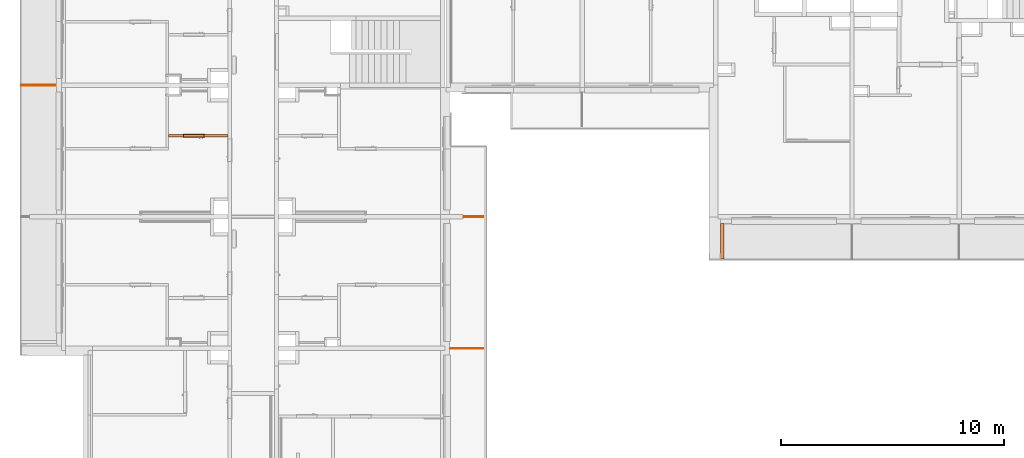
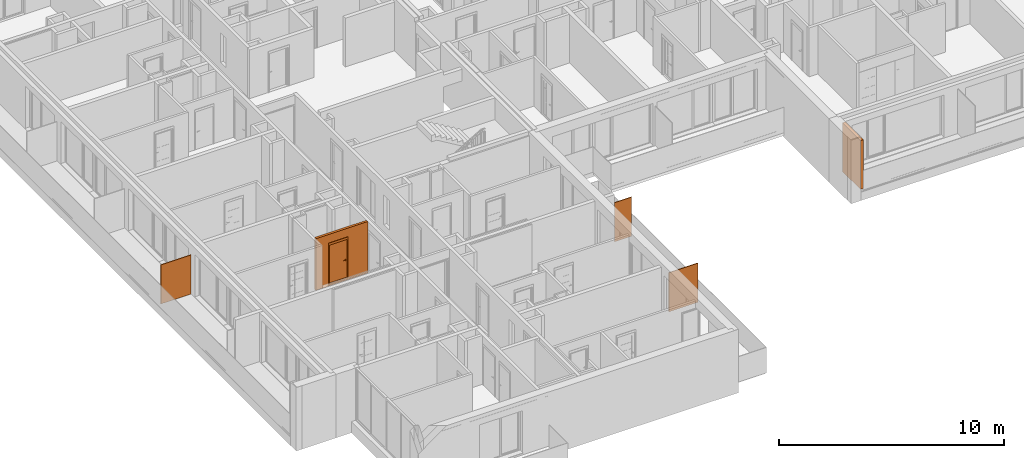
# One storey, part 15 of 67: 6 proxies, 1 opening.
"""IFC2X3 building model written with IfcOpenShell, lengths in millimetres."""

from ifc_helpers import new_model, entity, si_unit, converted_unit, derived_unit, money_unit, direction, frame, origin_with_axes, origin_2d_with_axis, place, context, subcontext, project, spatial, polyline, rectangle, outline, extrude, open_shell, faceted_brep, surface_model, source, transform, mapped, material, type_object, element, fill, save


model = new_model("IFC2X3")

# Units and contexts
model_context = context("Model", 3, precision=0.01, world=origin_with_axes(), true_north=direction((0.34421633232, 0.938890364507)))
body_context = subcontext(model_context, "Body", "Model", "MODEL_VIEW")
ifc_project = project(units=[si_unit("LENGTHUNIT", "METRE", prefix="MILLI"), si_unit("AREAUNIT", "SQUARE_METRE"), si_unit("VOLUMEUNIT", "CUBIC_METRE"), converted_unit("PLANEANGLEUNIT", "DEGREE", entity("IfcPlaneAngleMeasure", 0.0174532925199), si_unit("PLANEANGLEUNIT", "RADIAN"), dimensions=[0, 0, 0, 0, 0, 0, 0]), si_unit("SOLIDANGLEUNIT", "STERADIAN"), money_unit("USD"), converted_unit("TIMEUNIT", "Year", entity("IfcTimeMeasure", 31556926.0), si_unit("TIMEUNIT", "SECOND"), dimensions=[0, 0, 1, 0, 0, 0, 0]), si_unit("MASSUNIT", "GRAM", prefix="KILO"), si_unit("THERMODYNAMICTEMPERATUREUNIT", "DEGREE_CELSIUS"), si_unit("LUMINOUSINTENSITYUNIT", "LUMEN"), si_unit("ENERGYUNIT", "JOULE", prefix="MEGA"), derived_unit("THERMALCONDUCTANCEUNIT", [(si_unit("POWERUNIT", "WATT"), 1), (si_unit("LENGTHUNIT", "METRE"), -1), (si_unit("THERMODYNAMICTEMPERATUREUNIT", "KELVIN"), -1)]), derived_unit("SPECIFICHEATCAPACITYUNIT", [(si_unit("ENERGYUNIT", "JOULE"), 1), (si_unit("MASSUNIT", "GRAM", prefix="KILO"), -1), (si_unit("THERMODYNAMICTEMPERATUREUNIT", "KELVIN"), -1)]), derived_unit("MASSDENSITYUNIT", [(si_unit("MASSUNIT", "GRAM", prefix="KILO"), 1), (si_unit("VOLUMEUNIT", "CUBIC_METRE"), -1)])], contexts=[model_context])

# Site, building, storey
site_placement = place(None, origin_with_axes())
site = spatial("IfcSite", under=ifc_project, at=site_placement, Name="USTRONIE MORSKIE", CompositionType="ELEMENT")
building_placement = place(site_placement, origin_with_axes())
building = spatial("IfcBuilding", under=site, at=building_placement, Name="Budynek", CompositionType="ELEMENT")
storey_placement = place(building_placement, frame((0.0, 0.0, 4000.0), z_axis=(0.0, 0.0, 1.0), x_axis=(1.0, 0.0, 0.0)))
storey = spatial("IfcBuildingStorey", under=building, at=storey_placement, Name="PIĘTRO 1", CompositionType="ELEMENT", Elevation=4000.0)

# Proxies, opening
ifc_material_1 = material(Name="Bloczki silikatowe")
building_element_proxy_type_1 = type_object("IfcBuildingElementProxyType", Name="Bloczki silikatowe 120", PredefinedType="NOTDEFINED")
proxy_1_placement = place(storey_placement, frame((354717.920919, 724641.179437, -160.0), z_axis=(0.0, 0.0, 1.0), x_axis=(1.0, 0.0, 0.0)))
proxy_1 = element("IfcBuildingElementProxy", 1, at=proxy_1_placement, inside=storey, type_object=building_element_proxy_type_1, material=ifc_material_1, Name="SW-04", context=body_context, shape_type="Brep", body=[
    faceted_brep([(2720.0, -59.9999999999, 2800.0), (2720.0, 59.9999999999, 2800.0), (60.0, 59.9999999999, 2800.0), (60.0, -59.9999999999, 2800.0), (2720.0, -59.9999999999, 0.0), (2720.0, 59.9999999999, 0.0), (60.0, 59.9999999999, 0.0), (60.0, -59.9999999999, 0.0)], [[[0, 1, 2, 3]], [[1, 0, 4, 5]], [[1, 5, 6, 2]], [[7, 3, 2, 6]], [[4, 0, 3, 7]], [[5, 4, 7, 6]]]),
])
opening_placement = place(proxy_1_placement, frame((1200.0, -1.13686837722e-10, 160.0), z_axis=(0.0, 0.0, 1.0), x_axis=(1.0, 0.0, 0.0)))
opening = element("IfcOpeningElement", 2, at=opening_placement, cuts=proxy_1, Name="Dw.4", context=body_context, shape_type="SweptSolid", body=[
    extrude(rectangle(XDim=920.0, YDim=2070.0, at=origin_2d_with_axis()), frame((0.0, 120.0, 1035.0), z_axis=(0.0, -1.0, 0.0), x_axis=(-1.0, 0.0, 0.0)), (0.0, 0.0, 1.0), 360.0),
    extrude(rectangle(XDim=994.0, YDim=2177.0, at=origin_2d_with_axis()), frame((0.0, 60.0000000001, 1088.5), z_axis=(0.0, -1.0, 0.0), x_axis=(-1.0, 0.0, 0.0)), (0.0, 0.0, -1.0), 120.0),
    extrude(rectangle(XDim=994.0, YDim=2177.0, at=origin_2d_with_axis()), frame((0.0, -59.9999999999, 1088.5), z_axis=(0.0, 1.0, 0.0), x_axis=(-1.0, 0.0, 0.0)), (0.0, 0.0, -1.0), 120.0),
])
building_element_proxy_type_2 = type_object("IfcBuildingElementProxyType", Name="Drzwi 23", PredefinedType="NOTDEFINED")
shared_shape = source(origin_with_axes(), body_context, "Body", "SurfaceModel", [
    faceted_brep([(-460.0, -115.0, 0.0), (-435.0, -115.0, 0.0), (-435.0, -120.0, 0.0), (-460.0, -120.0, 0.0), (-460.0, -115.0, 2070.0), (-435.0, -115.0, 2045.0), (-435.0, -120.0, 2045.0), (-460.0, -120.0, 2070.0)], [[[0, 1, 2, 3]], [[0, 4, 5, 1]], [[1, 5, 6, 2]], [[3, 2, 6, 7]], [[4, 0, 3, 7]], [[5, 4, 7, 6]]]),
    faceted_brep([(460.0, -115.0, 2070.0), (435.0, -115.0, 2045.0), (435.0, -120.0, 2045.0), (460.0, -120.0, 2070.0), (460.0, -115.0, 0.0), (435.0, -115.0, 0.0), (435.0, -120.0, 0.0), (460.0, -120.0, 0.0)], [[[0, 1, 2, 3]], [[0, 4, 5, 1]], [[1, 5, 6, 2]], [[3, 2, 6, 7]], [[4, 0, 3, 7]], [[5, 4, 7, 6]]]),
    faceted_brep([(-435.0, -115.0, 2045.0), (435.0, -115.0, 2045.0), (435.0, -120.0, 2045.0), (-435.0, -120.0, 2045.0), (-460.0, -115.0, 2070.0), (460.0, -115.0, 2070.0), (460.0, -120.0, 2070.0), (-460.0, -120.0, 2070.0)], [[[0, 1, 2, 3]], [[0, 4, 5, 1]], [[1, 5, 6, 2]], [[3, 2, 6, 7]], [[4, 0, 3, 7]], [[5, 4, 7, 6]]]),
    faceted_brep([(-497.0, -139.0, 0.0), (-497.0, -120.0, 0.0), (-447.0, -120.0, 0.0), (-447.0, -139.0, 0.0), (-497.0, -139.0, 2177.0), (-497.0, -120.0, 2177.0), (-447.0, -120.0, 2057.0), (-447.0, -139.0, 2057.0)], [[[0, 1, 2, 3]], [[4, 5, 1, 0]], [[1, 5, 6, 2]], [[3, 2, 6, 7]], [[0, 3, 7, 4]], [[7, 6, 5, 4]]]),
    faceted_brep([(497.0, -139.0, 2177.0), (497.0, -120.0, 2177.0), (447.0, -120.0, 2057.0), (447.0, -139.0, 2057.0), (497.0, -139.0, 0.0), (497.0, -120.0, 0.0), (447.0, -120.0, 0.0), (447.0, -139.0, 0.0)], [[[0, 1, 2, 3]], [[4, 5, 1, 0]], [[1, 5, 6, 2]], [[3, 2, 6, 7]], [[0, 3, 7, 4]], [[7, 6, 5, 4]]]),
    faceted_brep([(-497.0, -139.0, 2177.0), (-497.0, -120.0, 2177.0), (-447.0, -120.0, 2057.0), (-447.0, -139.0, 2057.0), (497.0, -139.0, 2177.0), (497.0, -120.0, 2177.0), (447.0, -120.0, 2057.0), (447.0, -139.0, 2057.0)], [[[0, 1, 2, 3]], [[4, 5, 1, 0]], [[1, 5, 6, 2]], [[3, 2, 6, 7]], [[0, 3, 7, 4]], [[7, 6, 5, 4]]]),
    faceted_brep([(-497.0, 19.0, 0.0), (-447.0, 19.0, 0.0), (-447.0, 0.0, 0.0), (-497.0, 0.0, 0.0), (-497.0, 19.0, 2177.0), (-447.0, 19.0, 2057.0), (-447.0, 0.0, 2057.0), (-497.0, 0.0, 2177.0)], [[[0, 1, 2, 3]], [[0, 4, 5, 1]], [[1, 5, 6, 2]], [[3, 2, 6, 7]], [[4, 0, 3, 7]], [[5, 4, 7, 6]]]),
    faceted_brep([(497.0, 19.0, 2177.0), (447.0, 19.0, 2057.0), (447.0, 0.0, 2057.0), (497.0, 0.0, 2177.0), (497.0, 19.0, 0.0), (447.0, 19.0, 0.0), (447.0, 0.0, 0.0), (497.0, 0.0, 0.0)], [[[0, 1, 2, 3]], [[0, 4, 5, 1]], [[1, 5, 6, 2]], [[3, 2, 6, 7]], [[4, 0, 3, 7]], [[5, 4, 7, 6]]]),
    faceted_brep([(-497.0, 19.0, 2177.0), (-447.0, 19.0, 2057.0), (-447.0, 0.0, 2057.0), (-497.0, 0.0, 2177.0), (497.0, 19.0, 2177.0), (447.0, 19.0, 2057.0), (447.0, 0.0, 2057.0), (497.0, 0.0, 2177.0)], [[[0, 1, 2, 3]], [[0, 4, 5, 1]], [[1, 5, 6, 2]], [[3, 2, 6, 7]], [[4, 0, 3, 7]], [[5, 4, 7, 6]]]),
    faceted_brep([(-400.0, -40.0, 0.0), (-400.0, -40.0, 2000.0), (-400.0, -115.0, 2000.0), (-400.0, -115.0, 0.0), (-412.0, -40.0, 2000.0), (-412.0, -40.0, 0.0), (-412.0, 0.0, 2000.0), (-460.0, 0.0, 2000.0), (-460.0, -115.0, 2000.0), (-460.0, -115.0, 0.0), (-460.0, 0.0, 0.0), (-412.0, 0.0, 0.0)], [[[0, 1, 2, 3]], [[4, 1, 0, 5]], [[4, 6, 7, 8, 2, 1]], [[3, 2, 8, 9]], [[5, 0, 3, 9, 10, 11]], [[6, 4, 5, 11]], [[6, 11, 10, 7]], [[10, 9, 8, 7]]]),
    faceted_brep([(412.0, -40.0, 2000.0), (400.0, -40.0, 2000.0), (400.0, -115.0, 2000.0), (460.0, -115.0, 2000.0), (460.0, 0.0, 2000.0), (412.0, 0.0, 2000.0), (412.0, -40.0, 0.0), (400.0, -40.0, 0.0), (400.0, -115.0, 0.0), (460.0, -115.0, 0.0), (460.0, 0.0, 0.0), (412.0, 0.0, 0.0)], [[[0, 1, 2, 3, 4, 5]], [[1, 0, 6, 7]], [[1, 7, 8, 2]], [[3, 2, 8, 9]], [[4, 3, 9, 10]], [[11, 5, 4, 10]], [[0, 5, 11, 6]], [[6, 11, 10, 9, 8, 7]]]),
    faceted_brep([(-412.0, 0.0, 2012.0), (-412.0, 0.0, 2000.0), (-460.0, 0.0, 2000.0), (-460.0, 0.0, 2070.0), (460.0, 0.0, 2070.0), (460.0, 0.0, 2000.0), (412.0, 0.0, 2000.0), (412.0, 0.0, 2012.0), (-412.0, -40.0, 2012.0), (-412.0, -40.0, 2000.0), (-400.0, -40.0, 2000.0), (-400.0, -115.0, 2000.0), (-460.0, -115.0, 2000.0), (-460.0, -115.0, 2070.0), (460.0, -115.0, 2070.0), (460.0, -115.0, 2000.0), (412.0, -40.0, 2000.0), (400.0, -115.0, 2000.0), (400.0, -40.0, 2000.0), (412.0, -40.0, 2012.0)], [[[0, 1, 2, 3, 4, 5, 6, 7]], [[1, 0, 8, 9]], [[9, 10, 11, 12, 2, 1]], [[2, 12, 13, 3]], [[3, 13, 14, 4]], [[4, 14, 15, 5]], [[16, 6, 5, 15, 17, 18]], [[7, 6, 16, 19]], [[0, 7, 19, 8]], [[16, 18, 10, 9, 8, 19]], [[10, 18, 17, 11]], [[17, 15, 14, 13, 12, 11]]]),
    faceted_brep([(-390.5, -40.0, 1060.0), (-390.5, -43.0, 1060.0), (-333.5, -43.0, 1060.0), (-333.5, -40.0, 1060.0), (-390.5, -40.0, 870.0), (-390.5, -43.0, 870.0), (-333.5, -43.0, 870.0), (-333.5, -40.0, 870.0)], [[[0, 1, 2, 3]], [[4, 5, 1, 0]], [[1, 5, 6, 2]], [[3, 2, 6, 7]], [[0, 3, 7, 4]], [[7, 6, 5, 4]]]),
    faceted_brep([(-362.0, -104.0, 990.0), (-362.0, -111.0, 990.0), (-367.0, -111.0, 991.339745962), (-367.0, -104.0, 991.339745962), (-337.0, -104.0, 990.0), (-337.0, -111.0, 990.0), (-337.0, -111.0, 1010.0), (-362.0, -111.0, 1010.0), (-367.0, -111.0, 1008.66025404), (-370.660254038, -111.0, 1005.0), (-372.0, -111.0, 1000.0), (-370.660254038, -111.0, 995.0), (-370.660254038, -104.0, 995.0), (-372.0, -104.0, 1000.0), (-370.660254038, -104.0, 1005.0), (-367.0, -104.0, 1008.66025404), (-362.0, -104.0, 1010.0), (-337.0, -104.0, 1010.0)], [[[0, 1, 2, 3]], [[4, 5, 1, 0]], [[1, 5, 6, 7, 8, 9, 10, 11, 2]], [[3, 2, 11, 12]], [[0, 3, 12, 13, 14, 15, 16, 17, 4]], [[17, 6, 5, 4]], [[16, 7, 6, 17]], [[15, 8, 7, 16]], [[14, 9, 8, 15]], [[13, 10, 9, 14]], [[12, 11, 10, 13]]]),
    surface_model("IfcShellBasedSurfaceModel", [(-337.0, -104.0, 1010.0), (-323.596090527, -111.0, 1009.60730092), (-323.901717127, -104.0, 1009.60730092), (-337.0, -111.0, 1010.0), (-296.890283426, -108.663544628, 1008.82190275), (-323.901717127, -104.0, 990.392699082), (-337.0, -104.0, 990.0), (-337.0, -111.0, 990.0), (-323.596090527, -111.0, 990.392699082), (-296.890283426, -108.663544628, 991.178097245), (-297.804837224, -101.716818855, 1008.82190275), (-297.804837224, -101.716818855, 991.178097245), (-270.489735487, -104.008415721, 991.963495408), (-270.489735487, -104.008415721, 1008.03650459), (-272.006256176, -97.1678329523, 1008.03650459), (-272.006256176, -97.1678329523, 991.963495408), (-244.59537082, -97.0700416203, 992.748893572), (-244.59537082, -97.0700416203, 1007.25110643), (-246.702316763, -90.3876628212, 1007.25110643), (-246.702316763, -90.3876628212, 992.748893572), (-236.538795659, -94.1376880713, 993.0), (-236.538795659, -94.1376880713, 1007.0), (-238.829442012, -87.5221707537, 1007.0), (-238.829442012, -87.5221707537, 993.0)], [open_shell([[[0, 1, 2]], [[0, 3, 1]], [[2, 1, 4]], [[0, 2, 5, 6]], [[3, 7, 8, 1]], [[1, 8, 9, 4]], [[2, 4, 10]], [[2, 10, 11, 5]], [[5, 7, 6]], [[5, 8, 7]], [[11, 9, 8]], [[4, 9, 12, 13]], [[10, 4, 13]], [[10, 14, 15, 11]], [[11, 8, 5]], [[15, 9, 11]], [[15, 12, 9]], [[13, 12, 16, 17]], [[10, 13, 14]], [[14, 18, 19, 15]], [[19, 12, 15]], [[19, 16, 12]], [[17, 16, 20, 21]], [[14, 13, 17]], [[14, 17, 18]], [[18, 22, 23, 19]], [[23, 16, 19]], [[23, 20, 16]], [[22, 21, 20, 23]], [[18, 17, 21]], [[18, 21, 22]]])]),
    faceted_brep([(-351.607695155, -53.0, 994.0), (-350.741669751, -43.0, 993.5), (-349.0, -43.0, 1000.0), (-350.0, -53.0, 1000.0), (-356.0, -53.0, 989.607695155), (-355.5, -43.0, 988.741669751), (-362.0, -43.0, 987.0), (-368.5, -43.0, 988.741669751), (-373.258330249, -43.0, 993.5), (-375.0, -43.0, 1000.0), (-373.258330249, -43.0, 1006.5), (-368.5, -43.0, 1011.25833025), (-362.0, -43.0, 1013.0), (-355.5, -43.0, 1011.25833025), (-350.741669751, -43.0, 1006.5), (-351.607695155, -53.0, 1006.0), (-356.0, -53.0, 1010.39230485), (-362.0, -53.0, 1012.0), (-368.0, -53.0, 1010.39230485), (-372.392304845, -53.0, 1006.0), (-374.0, -53.0, 1000.0), (-372.392304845, -53.0, 994.0), (-368.0, -53.0, 989.607695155), (-362.0, -53.0, 988.0)], [[[0, 1, 2, 3]], [[4, 5, 1, 0]], [[2, 1, 5, 6, 7, 8, 9, 10, 11, 12, 13, 14]], [[3, 2, 14, 15]], [[3, 15, 16, 17, 18, 19, 20, 21, 22, 23, 4, 0]], [[23, 6, 5, 4]], [[22, 7, 6, 23]], [[21, 8, 7, 22]], [[20, 9, 8, 21]], [[19, 10, 9, 20]], [[18, 11, 10, 19]], [[17, 12, 11, 18]], [[16, 13, 12, 17]], [[15, 14, 13, 16]]]),
    faceted_brep([(-344.679491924, -47.0, 895.0), (-342.947441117, -43.0, 894.0), (-340.0, -43.0, 905.0), (-342.0, -47.0, 905.0), (-352.0, -47.0, 887.679491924), (-351.0, -43.0, 885.947441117), (-362.0, -43.0, 883.0), (-373.0, -43.0, 885.947441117), (-381.052558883, -43.0, 894.0), (-384.0, -43.0, 905.0), (-381.052558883, -43.0, 916.0), (-373.0, -43.0, 924.052558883), (-362.0, -43.0, 927.0), (-351.0, -43.0, 924.052558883), (-342.947441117, -43.0, 916.0), (-344.679491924, -47.0, 915.0), (-352.0, -47.0, 922.320508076), (-362.0, -47.0, 925.0), (-372.0, -47.0, 922.320508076), (-379.320508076, -47.0, 915.0), (-382.0, -47.0, 905.0), (-379.320508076, -47.0, 895.0), (-372.0, -47.0, 887.679491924), (-362.0, -47.0, 885.0)], [[[0, 1, 2, 3]], [[4, 5, 1, 0]], [[2, 1, 5, 6, 7, 8, 9, 10, 11, 12, 13, 14]], [[3, 2, 14, 15]], [[3, 15, 16, 17, 18, 19, 20, 21, 22, 23, 4, 0]], [[23, 6, 5, 4]], [[22, 7, 6, 23]], [[21, 8, 7, 22]], [[20, 9, 8, 21]], [[19, 10, 9, 20]], [[18, 11, 10, 19]], [[17, 12, 11, 18]], [[16, 13, 12, 17]], [[15, 14, 13, 16]]]),
    faceted_brep([(-357.050252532, -49.0, 909.050252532), (-356.343145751, -47.0, 908.343145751), (-354.0, -47.0, 914.0), (-355.0, -49.0, 914.0), (-362.0, -49.0, 907.0), (-362.0, -47.0, 906.0), (-367.656854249, -47.0, 908.343145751), (-370.0, -47.0, 914.0), (-367.656854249, -47.0, 919.656854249), (-362.0, -47.0, 922.0), (-356.343145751, -47.0, 919.656854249), (-357.050252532, -49.0, 918.949747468), (-362.0, -49.0, 921.0), (-366.949747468, -49.0, 918.949747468), (-369.0, -49.0, 914.0), (-366.949747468, -49.0, 909.050252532)], [[[0, 1, 2, 3]], [[4, 5, 1, 0]], [[2, 1, 5, 6, 7, 8, 9, 10]], [[3, 2, 10, 11]], [[3, 11, 12, 13, 14, 15, 4, 0]], [[15, 6, 5, 4]], [[14, 7, 6, 15]], [[13, 8, 7, 14]], [[12, 9, 8, 13]], [[11, 10, 9, 12]]]),
    faceted_brep([(-362.0, -53.0, 1010.0), (-362.0, -104.0, 1010.0), (-357.0, -104.0, 1008.66025404), (-357.0, -53.0, 1008.66025404), (-367.0, -53.0, 1008.66025404), (-367.0, -104.0, 1008.66025404), (-370.660254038, -104.0, 1005.0), (-372.0, -104.0, 1000.0), (-370.660254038, -104.0, 995.0), (-367.0, -104.0, 991.339745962), (-362.0, -104.0, 990.0), (-357.0, -104.0, 991.339745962), (-353.339745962, -104.0, 995.0), (-352.0, -104.0, 1000.0), (-353.339745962, -104.0, 1005.0), (-353.339745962, -53.0, 1005.0), (-352.0, -53.0, 1000.0), (-353.339745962, -53.0, 995.0), (-357.0, -53.0, 991.339745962), (-362.0, -53.0, 990.0), (-367.0, -53.0, 991.339745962), (-370.660254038, -53.0, 995.0), (-372.0, -53.0, 1000.0), (-370.660254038, -53.0, 1005.0)], [[[0, 1, 2, 3]], [[4, 5, 1, 0]], [[1, 5, 6, 7, 8, 9, 10, 11, 12, 13, 14, 2]], [[3, 2, 14, 15]], [[0, 3, 15, 16, 17, 18, 19, 20, 21, 22, 23, 4]], [[23, 6, 5, 4]], [[22, 7, 6, 23]], [[21, 8, 7, 22]], [[20, 9, 8, 21]], [[19, 10, 9, 20]], [[18, 11, 10, 19]], [[17, 12, 11, 18]], [[16, 13, 12, 17]], [[15, 14, 13, 16]]]),
    faceted_brep([(-390.5, 0.0, 1060.0), (-333.5, 0.0, 1060.0), (-333.5, 3.0, 1060.0), (-390.5, 3.0, 1060.0), (-390.5, 0.0, 870.0), (-333.5, 0.0, 870.0), (-333.5, 3.0, 870.0), (-390.5, 3.0, 870.0)], [[[0, 1, 2, 3]], [[0, 4, 5, 1]], [[1, 5, 6, 2]], [[3, 2, 6, 7]], [[4, 0, 3, 7]], [[5, 4, 7, 6]]]),
    faceted_brep([(-362.0, 64.0, 990.0), (-367.0, 64.0, 991.339745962), (-367.0, 71.0, 991.339745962), (-362.0, 71.0, 990.0), (-337.0, 64.0, 990.0), (-337.0, 64.0, 1010.0), (-362.0, 64.0, 1010.0), (-367.0, 64.0, 1008.66025404), (-370.660254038, 64.0, 1005.0), (-372.0, 64.0, 1000.0), (-370.660254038, 64.0, 995.0), (-370.660254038, 71.0, 995.0), (-372.0, 71.0, 1000.0), (-370.660254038, 71.0, 1005.0), (-367.0, 71.0, 1008.66025404), (-362.0, 71.0, 1010.0), (-337.0, 71.0, 1010.0), (-337.0, 71.0, 990.0)], [[[0, 1, 2, 3]], [[0, 4, 5, 6, 7, 8, 9, 10, 1]], [[1, 10, 11, 2]], [[3, 2, 11, 12, 13, 14, 15, 16, 17]], [[4, 0, 3, 17]], [[5, 4, 17, 16]], [[6, 5, 16, 15]], [[7, 6, 15, 14]], [[8, 7, 14, 13]], [[9, 8, 13, 12]], [[10, 9, 12, 11]]]),
    surface_model("IfcShellBasedSurfaceModel", [(-337.0, 64.0, 1010.0), (-323.901717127, 64.0, 1009.60730092), (-323.596090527, 71.0, 1009.60730092), (-337.0, 64.0, 990.0), (-323.901717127, 64.0, 990.392699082), (-296.890283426, 68.6635446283, 1008.82190275), (-337.0, 71.0, 1010.0), (-337.0, 71.0, 990.0), (-297.804837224, 61.716818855, 991.178097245), (-297.804837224, 61.716818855, 1008.82190275), (-296.890283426, 68.6635446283, 991.178097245), (-323.596090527, 71.0, 990.392699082), (-272.006256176, 57.1678329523, 991.963495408), (-272.006256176, 57.1678329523, 1008.03650459), (-270.489735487, 64.0084157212, 1008.03650459), (-270.489735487, 64.0084157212, 991.963495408), (-246.702316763, 50.3876628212, 992.748893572), (-246.702316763, 50.3876628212, 1007.25110643), (-244.59537082, 57.0700416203, 1007.25110643), (-244.59537082, 57.0700416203, 992.748893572), (-238.829442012, 47.5221707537, 993.0), (-238.829442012, 47.5221707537, 1007.0), (-236.538795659, 54.1376880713, 1007.0), (-236.538795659, 54.1376880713, 993.0)], [open_shell([[[0, 1, 2]], [[0, 3, 4, 1]], [[1, 5, 2]], [[0, 2, 6]], [[4, 3, 7]], [[1, 4, 8, 9]], [[1, 9, 5]], [[2, 5, 10, 11]], [[6, 2, 11, 7]], [[4, 7, 11]], [[8, 4, 11]], [[9, 8, 12, 13]], [[9, 14, 5]], [[5, 14, 15, 10]], [[8, 11, 10]], [[12, 8, 10]], [[13, 12, 16, 17]], [[9, 13, 14]], [[14, 18, 19, 15]], [[12, 10, 15]], [[16, 12, 15]], [[17, 16, 20, 21]], [[13, 17, 18]], [[13, 18, 14]], [[18, 22, 23, 19]], [[16, 15, 19]], [[20, 16, 19]], [[21, 20, 23, 22]], [[17, 21, 22]], [[17, 22, 18]], [[20, 19, 23]]])]),
    faceted_brep([(-351.607695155, 13.0, 994.0), (-350.0, 13.0, 1000.0), (-349.0, 3.0, 1000.0), (-350.741669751, 3.0, 993.5), (-356.0, 13.0, 989.607695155), (-362.0, 13.0, 988.0), (-368.0, 13.0, 989.607695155), (-372.392304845, 13.0, 994.0), (-374.0, 13.0, 1000.0), (-372.392304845, 13.0, 1006.0), (-368.0, 13.0, 1010.39230485), (-362.0, 13.0, 1012.0), (-356.0, 13.0, 1010.39230485), (-351.607695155, 13.0, 1006.0), (-350.741669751, 3.0, 1006.5), (-355.5, 3.0, 1011.25833025), (-362.0, 3.0, 1013.0), (-368.5, 3.0, 1011.25833025), (-373.258330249, 3.0, 1006.5), (-375.0, 3.0, 1000.0), (-373.258330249, 3.0, 993.5), (-368.5, 3.0, 988.741669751), (-362.0, 3.0, 987.0), (-355.5, 3.0, 988.741669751)], [[[0, 1, 2, 3]], [[1, 0, 4, 5, 6, 7, 8, 9, 10, 11, 12, 13]], [[1, 13, 14, 2]], [[2, 14, 15, 16, 17, 18, 19, 20, 21, 22, 23, 3]], [[4, 0, 3, 23]], [[5, 4, 23, 22]], [[6, 5, 22, 21]], [[7, 6, 21, 20]], [[8, 7, 20, 19]], [[9, 8, 19, 18]], [[10, 9, 18, 17]], [[11, 10, 17, 16]], [[12, 11, 16, 15]], [[13, 12, 15, 14]]]),
    faceted_brep([(-344.679491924, 7.0, 895.0), (-342.0, 7.0, 905.0), (-340.0, 3.0, 905.0), (-342.947441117, 3.0, 894.0), (-352.0, 7.0, 887.679491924), (-362.0, 7.0, 885.0), (-372.0, 7.0, 887.679491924), (-379.320508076, 7.0, 895.0), (-382.0, 7.0, 905.0), (-379.320508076, 7.0, 915.0), (-372.0, 7.0, 922.320508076), (-362.0, 7.0, 925.0), (-352.0, 7.0, 922.320508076), (-344.679491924, 7.0, 915.0), (-342.947441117, 3.0, 916.0), (-351.0, 3.0, 924.052558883), (-362.0, 3.0, 927.0), (-373.0, 3.0, 924.052558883), (-381.052558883, 3.0, 916.0), (-384.0, 3.0, 905.0), (-381.052558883, 3.0, 894.0), (-373.0, 3.0, 885.947441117), (-362.0, 3.0, 883.0), (-351.0, 3.0, 885.947441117)], [[[0, 1, 2, 3]], [[1, 0, 4, 5, 6, 7, 8, 9, 10, 11, 12, 13]], [[1, 13, 14, 2]], [[2, 14, 15, 16, 17, 18, 19, 20, 21, 22, 23, 3]], [[4, 0, 3, 23]], [[5, 4, 23, 22]], [[6, 5, 22, 21]], [[7, 6, 21, 20]], [[8, 7, 20, 19]], [[9, 8, 19, 18]], [[10, 9, 18, 17]], [[11, 10, 17, 16]], [[12, 11, 16, 15]], [[13, 12, 15, 14]]]),
    faceted_brep([(-357.050252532, 9.0, 909.050252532), (-355.0, 9.0, 914.0), (-354.0, 7.0, 914.0), (-356.343145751, 7.0, 908.343145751), (-362.0, 9.0, 907.0), (-366.949747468, 9.0, 909.050252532), (-369.0, 9.0, 914.0), (-366.949747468, 9.0, 918.949747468), (-362.0, 9.0, 921.0), (-357.050252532, 9.0, 918.949747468), (-356.343145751, 7.0, 919.656854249), (-362.0, 7.0, 922.0), (-367.656854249, 7.0, 919.656854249), (-370.0, 7.0, 914.0), (-367.656854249, 7.0, 908.343145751), (-362.0, 7.0, 906.0)], [[[0, 1, 2, 3]], [[1, 0, 4, 5, 6, 7, 8, 9]], [[1, 9, 10, 2]], [[2, 10, 11, 12, 13, 14, 15, 3]], [[4, 0, 3, 15]], [[5, 4, 15, 14]], [[6, 5, 14, 13]], [[7, 6, 13, 12]], [[8, 7, 12, 11]], [[9, 8, 11, 10]]]),
    faceted_brep([(-362.0, 13.0, 1010.0), (-357.0, 13.0, 1008.66025404), (-357.0, 64.0, 1008.66025404), (-362.0, 64.0, 1010.0), (-367.0, 13.0, 1008.66025404), (-370.660254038, 13.0, 1005.0), (-372.0, 13.0, 1000.0), (-370.660254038, 13.0, 995.0), (-367.0, 13.0, 991.339745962), (-362.0, 13.0, 990.0), (-357.0, 13.0, 991.339745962), (-353.339745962, 13.0, 995.0), (-352.0, 13.0, 1000.0), (-353.339745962, 13.0, 1005.0), (-353.339745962, 64.0, 1005.0), (-352.0, 64.0, 1000.0), (-353.339745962, 64.0, 995.0), (-357.0, 64.0, 991.339745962), (-362.0, 64.0, 990.0), (-367.0, 64.0, 991.339745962), (-370.660254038, 64.0, 995.0), (-372.0, 64.0, 1000.0), (-370.660254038, 64.0, 1005.0), (-367.0, 64.0, 1008.66025404)], [[[0, 1, 2, 3]], [[0, 4, 5, 6, 7, 8, 9, 10, 11, 12, 13, 1]], [[1, 13, 14, 2]], [[3, 2, 14, 15, 16, 17, 18, 19, 20, 21, 22, 23]], [[4, 0, 3, 23]], [[5, 4, 23, 22]], [[6, 5, 22, 21]], [[7, 6, 21, 20]], [[8, 7, 20, 19]], [[9, 8, 19, 18]], [[10, 9, 18, 17]], [[11, 10, 17, 16]], [[12, 11, 16, 15]], [[13, 12, 15, 14]]]),
    faceted_brep([(412.0, 0.0, 0.0), (412.0, -40.0, 0.0), (-412.0, -40.0, 0.0), (-412.0, 0.0, 0.0), (412.0, 0.0, 2012.0), (412.0, -40.0, 2012.0), (-412.0, -40.0, 2012.0), (-412.0, 0.0, 2012.0)], [[[0, 1, 2, 3]], [[4, 5, 1, 0]], [[1, 5, 6, 2]], [[3, 2, 6, 7]], [[0, 3, 7, 4]], [[7, 6, 5, 4]]]),
])
proxy_2_placement = place(opening_placement, frame((400.0, 0.0, 0.0), z_axis=(0.0, 0.0, 1.0), x_axis=(-1.0, 0.0, 0.0)))
proxy_2 = element("IfcBuildingElementProxy", 3, at=proxy_2_placement, inside=storey, type_object=building_element_proxy_type_2, Name="Dw.4", context=body_context, shape_type="MappedRepresentation", body=[
    mapped(shared_shape, transform((400.0, 59.9999999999, 0.0))),
])
fill(opening, proxy_2)

# Proxies
ifc_material_2 = material(Name="Woda")
building_element_proxy_type_3 = type_object("IfcBuildingElementProxyType", Name="Woda 30", PredefinedType="NOTDEFINED")
proxy_3_placement = place(storey_placement, frame((368017.957311, 721001.199036, 20.0), z_axis=(0.0, 0.0, 1.0), x_axis=(0.99999999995, -1.0002154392e-05, 0.0)))
element("IfcBuildingElementProxy", 4, at=proxy_3_placement, inside=storey, type_object=building_element_proxy_type_3, material=ifc_material_2, Name="Œciana-007", context=body_context, shape_type="SweptSolid", body=[
    extrude(outline(polyline([(0.0, -15.0000000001), (870.000000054, -15.0000000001), (870.000000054, 14.9999999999), (0.0, 14.9999999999), (0.0, -15.0000000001)])), origin_with_axes(), (0.0, 0.0, 1.0), 2120.0),
])
proxy_4_placement = place(storey_placement, frame((349717.920919, 726901.199036, 20.0), z_axis=(0.0, 0.0, 1.0), x_axis=(-1.0, 0.0, 0.0)))
element("IfcBuildingElementProxy", 5, at=proxy_4_placement, inside=storey, type_object=building_element_proxy_type_3, material=ifc_material_2, Name="Œciana-007", context=body_context, shape_type="SweptSolid", body=[
    extrude(outline(polyline([(0.0, -15.0), (1550.0, -15.0), (1550.0, 15.0), (0.0, 15.0), (0.0, -15.0)])), origin_with_axes(), (0.0, 0.0, 1.0), 2120.0),
])
proxy_5_placement = place(storey_placement, frame((367397.957311, 715101.199004, 20.0), z_axis=(0.0, 0.0, 1.0), x_axis=(0.99999999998, -6.33272493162e-06, 0.0)))
element("IfcBuildingElementProxy", 6, at=proxy_5_placement, inside=storey, type_object=building_element_proxy_type_3, material=ifc_material_2, Name="Œciana-007", context=body_context, shape_type="SweptSolid", body=[
    extrude(outline(polyline([(0.0, -15.0), (1490.00000003, -15.0), (1490.00000003, 15.0000000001), (0.0, 15.0000000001), (0.0, -15.0)])), origin_with_axes(), (0.0, 0.0, 1.0), 2120.0),
])
ifc_material_3 = material(Name="Laminat")
building_element_proxy_type_4 = type_object("IfcBuildingElementProxyType", Name="Laminat 150", PredefinedType="NOTDEFINED")
proxy_6_placement = place(storey_placement, frame((379602.920919, 720691.199036, -30.000001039), z_axis=(0.0, 0.0, 1.0), x_axis=(0.0, -1.0, 0.0)))
element("IfcBuildingElementProxy", 7, at=proxy_6_placement, inside=storey, type_object=building_element_proxy_type_4, material=ifc_material_3, context=body_context, shape_type="SweptSolid", body=[
    extrude(outline(polyline([(0.0, -75.0), (1590.0, -75.0), (1590.0, 75.0), (0.0, 75.0), (0.0, -75.0)])), origin_with_axes(), (0.0, 0.0, 1.0), 2650.00000104),
])

save(model, "model.ifc")
